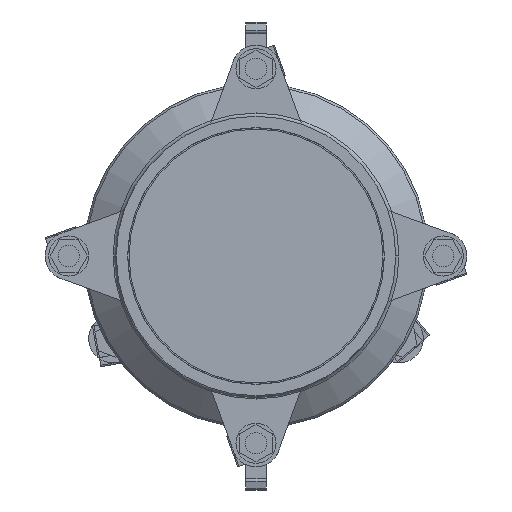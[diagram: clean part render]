
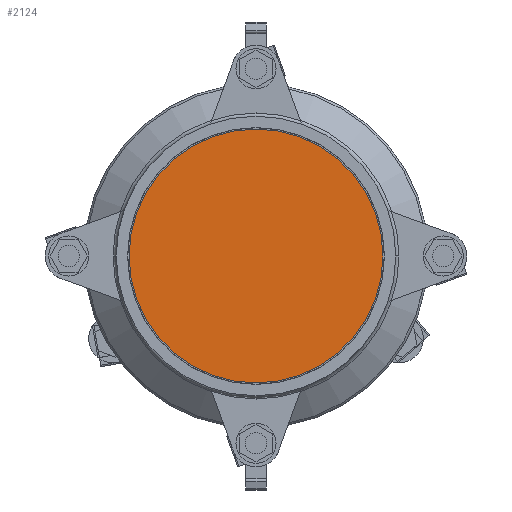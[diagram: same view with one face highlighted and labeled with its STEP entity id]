
A CAD part, left-side view. The second image highlights one B-rep face of the part: STEP entity #2124.
In plain terms, the highlighted planar face has unit normal (-1, 0, 0).
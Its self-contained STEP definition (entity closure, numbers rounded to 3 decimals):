
#2124=ADVANCED_FACE('',(#4035),#4036,.T.);
#4035=FACE_OUTER_BOUND('',#6291,.T.);
#4036=PLANE('',#6292);
#6291=EDGE_LOOP('',(#10011,#10012));
#6292=AXIS2_PLACEMENT_3D('',#10013,#10014,#10015);
#10011=ORIENTED_EDGE('',*,*,#12753,.T.);
#10012=ORIENTED_EDGE('',*,*,#13214,.T.);
#10013=CARTESIAN_POINT('',(21.5,0.0,0.0));
#10014=DIRECTION('',(-1.0,0.0,0.));
#10015=DIRECTION('',(0.,0.0,1.0));
#12753=EDGE_CURVE('',#15179,#15184,#15186,.T.);
#13214=EDGE_CURVE('',#15184,#15179,#15876,.T.);
#15179=VERTEX_POINT('',#18369);
#15184=VERTEX_POINT('',#18375);
#15186=CIRCLE('',#18378,105.0);
#15876=CIRCLE('',#19311,105.0);
#18369=CARTESIAN_POINT('',(21.5,0.0,-105.0));
#18375=CARTESIAN_POINT('',(21.5,0.,105.0));
#18378=AXIS2_PLACEMENT_3D('',#21456,#21457,#21458);
#19311=AXIS2_PLACEMENT_3D('',#21984,#21985,#21986);
#21456=CARTESIAN_POINT('',(21.5,0.0,0.0));
#21457=DIRECTION('',(-1.0,0.0,0.));
#21458=DIRECTION('',(0.,0.0,-1.0));
#21984=CARTESIAN_POINT('',(21.5,0.0,0.0));
#21985=DIRECTION('',(-1.0,0.0,0.));
#21986=DIRECTION('',(0.,0.0,-1.0));
